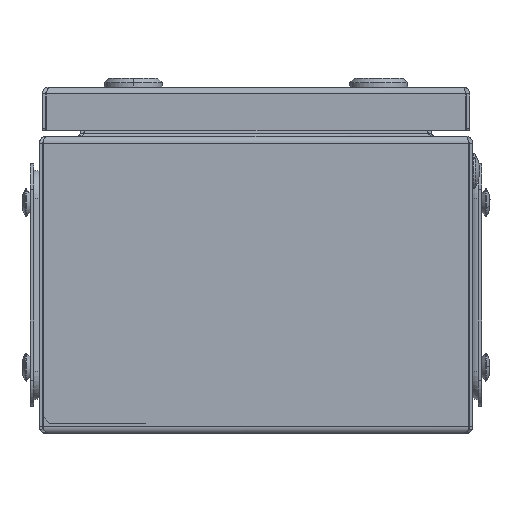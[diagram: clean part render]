
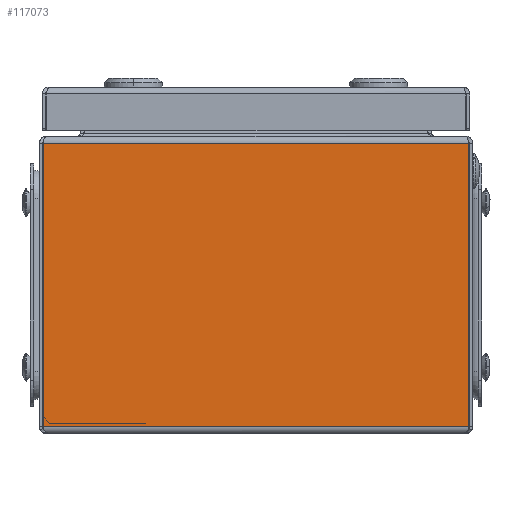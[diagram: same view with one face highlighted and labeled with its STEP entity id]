
A CAD part, left-side view. The second image highlights one B-rep face of the part: STEP entity #117073.
In plain terms, the highlighted planar face has unit normal (-1, 0, 0).
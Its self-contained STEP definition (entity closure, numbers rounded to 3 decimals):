
#3642 = DIRECTION ( 'NONE',  ( 0., 1., 0. ) ) ;
#3943 = CARTESIAN_POINT ( 'NONE',  ( -150., 73.623, 100.6 ) ) ;
#5137 = ORIENTED_EDGE ( 'NONE', *, *, #117837, .F. ) ;
#5827 = CARTESIAN_POINT ( 'NONE',  ( -150., -1575., 100.6 ) ) ;
#7395 = EDGE_LOOP ( 'NONE', ( #30889, #105355, #5137, #115060 ) ) ;
#16488 = EDGE_CURVE ( 'NONE', #87703, #22156, #87528, .T. ) ;
#18880 = PLANE ( 'NONE',  #39180 ) ;
#20282 = VERTEX_POINT ( 'NONE', #46078 ) ;
#22156 = VERTEX_POINT ( 'NONE', #3943 ) ;
#22874 = DIRECTION ( 'NONE',  ( 0., 0., -1. ) ) ;
#26554 = EDGE_CURVE ( 'NONE', #45849, #22156, #63833, .T. ) ;
#27119 = DIRECTION ( 'NONE',  ( 0., 0., 1. ) ) ;
#27945 = FACE_OUTER_BOUND ( 'NONE', #7395, .T. ) ;
#30889 = ORIENTED_EDGE ( 'NONE', *, *, #26554, .F. ) ;
#39180 = AXIS2_PLACEMENT_3D ( 'NONE', #71088, #99667, #22874 ) ;
#44438 = CARTESIAN_POINT ( 'NONE',  ( -150., -73.623, 100.6 ) ) ;
#45849 = VERTEX_POINT ( 'NONE', #62501 ) ;
#46078 = CARTESIAN_POINT ( 'NONE',  ( -150., -73.623, 2.4 ) ) ;
#51079 = VECTOR ( 'NONE', #62721, 1000. ) ;
#59120 = LINE ( 'NONE', #96280, #82528 ) ;
#62501 = CARTESIAN_POINT ( 'NONE',  ( -150., 73.623, 2.4 ) ) ;
#62721 = DIRECTION ( 'NONE',  ( 0., 0., -1. ) ) ;
#63833 = LINE ( 'NONE', #90621, #98511 ) ;
#68942 = EDGE_CURVE ( 'NONE', #20282, #45849, #59120, .T. ) ;
#71045 = DIRECTION ( 'NONE',  ( 0., 1., 0. ) ) ;
#71088 = CARTESIAN_POINT ( 'NONE',  ( -150., -1575., 100.6 ) ) ;
#74334 = VECTOR ( 'NONE', #71045, 1000. ) ;
#82528 = VECTOR ( 'NONE', #3642, 1000. ) ;
#87528 = LINE ( 'NONE', #5827, #74334 ) ;
#87703 = VERTEX_POINT ( 'NONE', #92767 ) ;
#90621 = CARTESIAN_POINT ( 'NONE',  ( -150., 73.623, 100.6 ) ) ;
#92767 = CARTESIAN_POINT ( 'NONE',  ( -150., -73.623, 100.6 ) ) ;
#96280 = CARTESIAN_POINT ( 'NONE',  ( -150., -1575., 2.4 ) ) ;
#98511 = VECTOR ( 'NONE', #27119, 1000. ) ;
#99667 = DIRECTION ( 'NONE',  ( 1., 0., 0. ) ) ;
#105355 = ORIENTED_EDGE ( 'NONE', *, *, #68942, .F. ) ;
#115060 = ORIENTED_EDGE ( 'NONE', *, *, #16488, .T. ) ;
#117073 = ADVANCED_FACE ( 'NONE', ( #27945 ), #18880, .F. ) ;
#117837 = EDGE_CURVE ( 'NONE', #87703, #20282, #118104, .T. ) ;
#118104 = LINE ( 'NONE', #44438, #51079 ) ;
